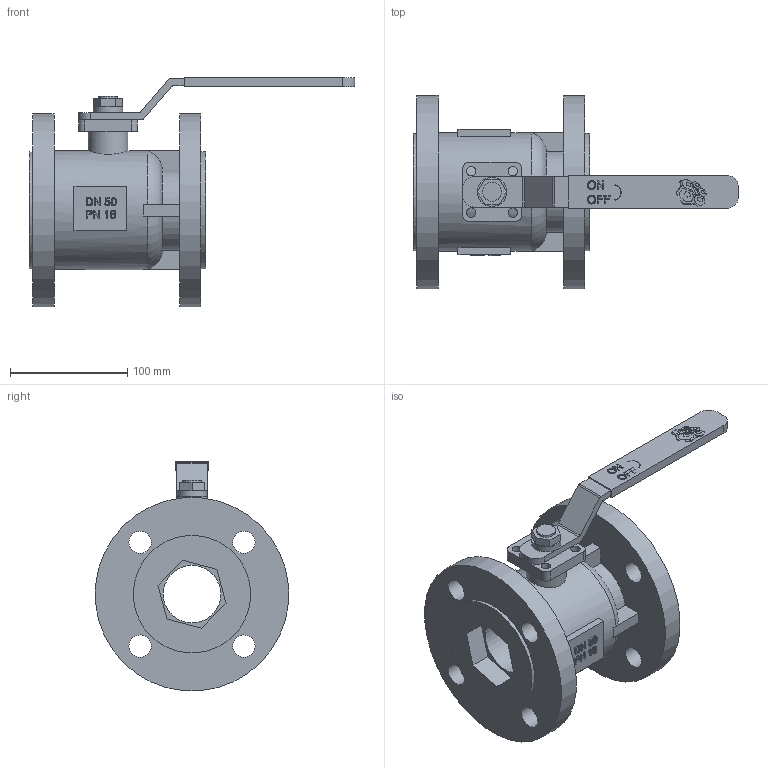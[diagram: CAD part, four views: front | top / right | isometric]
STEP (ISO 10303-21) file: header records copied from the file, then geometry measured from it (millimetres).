
FILE_DESCRIPTION(('STEP AP203'), '1');
FILE_NAME('3D_707-050-16_1', '', ('UNSPECIFIED'), ('UNSPECIFIED'), 'C3D Converter', 'C3D Toolkit', '');
FILE_SCHEMA(('CONFIG_CONTROL_DESIGN'));
Length unit declared in the file: millimetre
Bounding box: 277 x 164.37 x 195.39 mm (x, y, z)
Volume: 1389723.8 mm3; surface area: 187984.5 mm2
Topology: 28 solids, 28 shells, 2426 faces, 7088 edges, 4727 vertices
Faces by surface type: plane 2383, cylinder 39, torus 4
Full cylindrical faces by diameter (mm): 8 x4, 16 x1, 19 x8, 25 x1, 34 x1, 49 x1, 100 x2, 101 x1, 165 x2
Entity records: 99154 total; most frequent: CARTESIAN_POINT 15082, ORIENTED_EDGE 14134, DIRECTION 12012, EDGE_CURVE 7067, LINE 6956, VECTOR 6956, VERTEX_POINT 4727, AXIS2_PLACEMENT_3D 2528
